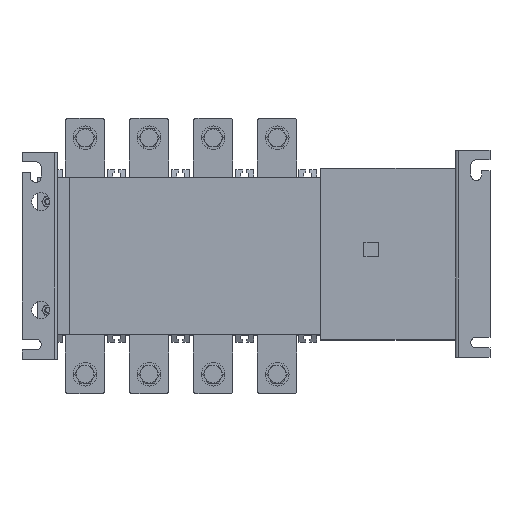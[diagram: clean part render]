
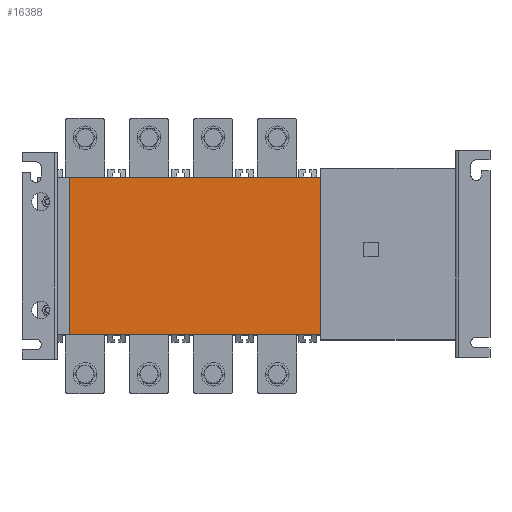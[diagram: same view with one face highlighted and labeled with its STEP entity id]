
A CAD part, top view. The second image highlights one B-rep face of the part: STEP entity #16388.
In plain terms, the highlighted planar face has unit normal (0, 0, 1) as drawn and (0, -1, 0) by its records, which use the part's own axes.
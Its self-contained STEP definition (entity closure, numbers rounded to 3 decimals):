
#16309=DIRECTION('',(0.,0.,1.));
#16310=VECTOR('',#16309,160.);
#16311=CARTESIAN_POINT('',(-127.5,0.,-80.));
#16312=LINE('',#16311,#16310);
#16313=DIRECTION('',(1.,0.,0.));
#16314=VECTOR('',#16313,255.);
#16315=CARTESIAN_POINT('',(-127.5,0.,80.));
#16316=LINE('',#16315,#16314);
#16317=DIRECTION('',(0.,0.,-1.));
#16318=VECTOR('',#16317,160.);
#16319=CARTESIAN_POINT('',(127.5,0.,80.));
#16320=LINE('',#16319,#16318);
#16321=DIRECTION('',(-1.,0.,0.));
#16322=VECTOR('',#16321,255.);
#16323=CARTESIAN_POINT('',(127.5,0.,-80.));
#16324=LINE('',#16323,#16322);
#16357=CARTESIAN_POINT('',(-127.5,0.,-80.));
#16358=CARTESIAN_POINT('',(-127.5,0.,80.));
#16359=VERTEX_POINT('',#16357);
#16360=VERTEX_POINT('',#16358);
#16361=CARTESIAN_POINT('',(127.5,0.,80.));
#16362=VERTEX_POINT('',#16361);
#16363=CARTESIAN_POINT('',(127.5,0.,-80.));
#16364=VERTEX_POINT('',#16363);
#16373=CARTESIAN_POINT('',(0.,0.,0.));
#16374=DIRECTION('',(0.,1.,0.));
#16375=DIRECTION('',(1.,0.,0.));
#16376=AXIS2_PLACEMENT_3D('',#16373,#16374,#16375);
#16377=PLANE('',#16376);
#16379=ORIENTED_EDGE('',*,*,#16378,.T.);
#16381=ORIENTED_EDGE('',*,*,#16380,.T.);
#16383=ORIENTED_EDGE('',*,*,#16382,.T.);
#16385=ORIENTED_EDGE('',*,*,#16384,.T.);
#16386=EDGE_LOOP('',(#16379,#16381,#16383,#16385));
#16387=FACE_OUTER_BOUND('',#16386,.F.);
#16388=ADVANCED_FACE('',(#16387),#16377,.F.);
#16378=EDGE_CURVE('',#16359,#16360,#16312,.T.);
#16380=EDGE_CURVE('',#16360,#16362,#16316,.T.);
#16382=EDGE_CURVE('',#16362,#16364,#16320,.T.);
#16384=EDGE_CURVE('',#16364,#16359,#16324,.T.);
